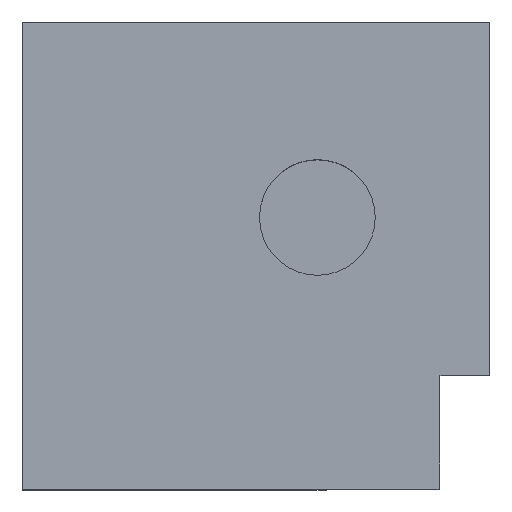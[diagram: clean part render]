
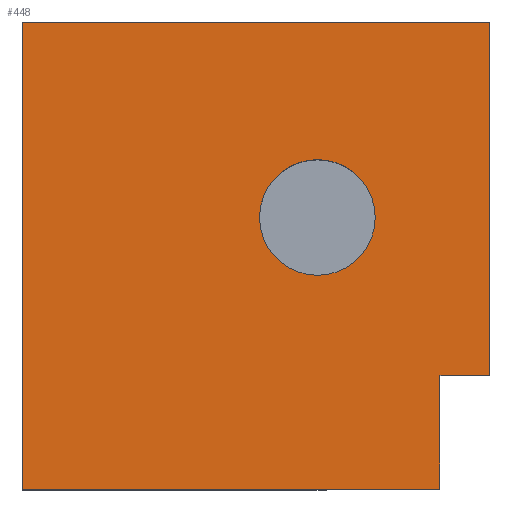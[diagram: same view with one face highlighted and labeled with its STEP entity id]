
A CAD part, top view. The second image highlights one B-rep face of the part: STEP entity #448.
In plain terms, the highlighted planar face has unit normal (0, 0, 1).
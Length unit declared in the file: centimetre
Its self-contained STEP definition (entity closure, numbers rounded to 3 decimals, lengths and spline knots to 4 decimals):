
#16 = DIRECTION ( 'NONE',  ( 0., 0., 1. ) ) ;
#17 = CARTESIAN_POINT ( 'NONE',  ( 893.8441, 243.6438, 1000. ) ) ;
#40 = EDGE_CURVE ( 'NONE', #716, #619, #189, .T. ) ;
#45 = CARTESIAN_POINT ( 'NONE',  ( 1000., 243.6438, 1000. ) ) ;
#47 = DIRECTION ( 'NONE',  ( 1., 0., 0. ) ) ;
#53 = CARTESIAN_POINT ( 'NONE',  ( 893.8441, 0., 1000. ) ) ;
#63 = VECTOR ( 'NONE', #374, 100. ) ;
#64 = ORIENTED_EDGE ( 'NONE', *, *, #40, .F. ) ;
#72 = VECTOR ( 'NONE', #732, 100. ) ;
#81 = DIRECTION ( 'NONE',  ( 0., -1., 0. ) ) ;
#111 = CARTESIAN_POINT ( 'NONE',  ( 631.4034, 581.6803, 1000. ) ) ;
#121 = LINE ( 'NONE', #384, #63 ) ;
#137 = ORIENTED_EDGE ( 'NONE', *, *, #536, .T. ) ;
#150 = CARTESIAN_POINT ( 'NONE',  ( 1000., 243.6438, 1000. ) ) ;
#158 = CARTESIAN_POINT ( 'NONE',  ( 0., 0., 1000. ) ) ;
#166 = VECTOR ( 'NONE', #407, 100. ) ;
#178 = EDGE_LOOP ( 'NONE', ( #64, #245 ) ) ;
#187 = CARTESIAN_POINT ( 'NONE',  ( 893.8441, 243.6438, 1000. ) ) ;
#189 = CIRCLE ( 'NONE', #583, 123.8668 ) ;
#192 = ORIENTED_EDGE ( 'NONE', *, *, #588, .T. ) ;
#195 = VECTOR ( 'NONE', #520, 100. ) ;
#202 = VECTOR ( 'NONE', #81, 100. ) ;
#232 = CIRCLE ( 'NONE', #493, 123.8668 ) ;
#245 = ORIENTED_EDGE ( 'NONE', *, *, #252, .F. ) ;
#252 = EDGE_CURVE ( 'NONE', #619, #716, #232, .T. ) ;
#256 = CARTESIAN_POINT ( 'NONE',  ( 0., 1000., 1000. ) ) ;
#281 = VERTEX_POINT ( 'NONE', #496 ) ;
#289 = CARTESIAN_POINT ( 'NONE',  ( 0., 0., 1000. ) ) ;
#317 = VERTEX_POINT ( 'NONE', #45 ) ;
#322 = VERTEX_POINT ( 'NONE', #502 ) ;
#324 = LINE ( 'NONE', #517, #705 ) ;
#327 = DIRECTION ( 'NONE',  ( 1., 0., 0. ) ) ;
#341 = LINE ( 'NONE', #150, #166 ) ;
#353 = LINE ( 'NONE', #17, #202 ) ;
#366 = DIRECTION ( 'NONE',  ( 0., 0., 1. ) ) ;
#369 = EDGE_CURVE ( 'NONE', #281, #322, #614, .T. ) ;
#374 = DIRECTION ( 'NONE',  ( 0., 1., 0. ) ) ;
#384 = CARTESIAN_POINT ( 'NONE',  ( 1000., 1000., 1000. ) ) ;
#405 = CARTESIAN_POINT ( 'NONE',  ( 631.4034, 581.6803, 1000. ) ) ;
#407 = DIRECTION ( 'NONE',  ( -1., 0., 0. ) ) ;
#410 = DIRECTION ( 'NONE',  ( 0., 0., 1. ) ) ;
#418 = CARTESIAN_POINT ( 'NONE',  ( 755.2702, 581.6803, 1000. ) ) ;
#448 = ADVANCED_FACE ( 'NONE', ( #753, #605 ), #663, .T. ) ;
#454 = ORIENTED_EDGE ( 'NONE', *, *, #501, .T. ) ;
#493 = AXIS2_PLACEMENT_3D ( 'NONE', #111, #366, #47 ) ;
#496 = CARTESIAN_POINT ( 'NONE',  ( 1000., 1000., 1000. ) ) ;
#501 = EDGE_CURVE ( 'NONE', #783, #618, #324, .T. ) ;
#502 = CARTESIAN_POINT ( 'NONE',  ( 0., 1000., 1000. ) ) ;
#517 = CARTESIAN_POINT ( 'NONE',  ( 0., 0., 1000. ) ) ;
#520 = DIRECTION ( 'NONE',  ( 0., -1., 0. ) ) ;
#533 = CARTESIAN_POINT ( 'NONE',  ( 0., 1000., 1000. ) ) ;
#536 = EDGE_CURVE ( 'NONE', #317, #281, #121, .T. ) ;
#554 = ORIENTED_EDGE ( 'NONE', *, *, #709, .F. ) ;
#583 = AXIS2_PLACEMENT_3D ( 'NONE', #405, #410, #327 ) ;
#584 = VERTEX_POINT ( 'NONE', #187 ) ;
#588 = EDGE_CURVE ( 'NONE', #322, #783, #664, .T. ) ;
#595 = CARTESIAN_POINT ( 'NONE',  ( 507.5366, 581.6803, 1000. ) ) ;
#605 = FACE_BOUND ( 'NONE', #178, .T. ) ;
#614 = LINE ( 'NONE', #533, #72 ) ;
#618 = VERTEX_POINT ( 'NONE', #53 ) ;
#619 = VERTEX_POINT ( 'NONE', #595 ) ;
#663 = PLANE ( 'NONE',  #667 ) ;
#664 = LINE ( 'NONE', #256, #195 ) ;
#667 = AXIS2_PLACEMENT_3D ( 'NONE', #158, #16, #817 ) ;
#705 = VECTOR ( 'NONE', #777, 100. ) ;
#709 = EDGE_CURVE ( 'NONE', #584, #618, #353, .T. ) ;
#716 = VERTEX_POINT ( 'NONE', #418 ) ;
#732 = DIRECTION ( 'NONE',  ( -1., 0., 0. ) ) ;
#741 = ORIENTED_EDGE ( 'NONE', *, *, #369, .T. ) ;
#744 = ORIENTED_EDGE ( 'NONE', *, *, #757, .F. ) ;
#753 = FACE_OUTER_BOUND ( 'NONE', #813, .T. ) ;
#757 = EDGE_CURVE ( 'NONE', #317, #584, #341, .T. ) ;
#777 = DIRECTION ( 'NONE',  ( 1., 0., 0. ) ) ;
#783 = VERTEX_POINT ( 'NONE', #289 ) ;
#813 = EDGE_LOOP ( 'NONE', ( #554, #744, #137, #741, #192, #454 ) ) ;
#817 = DIRECTION ( 'NONE',  ( 1., 0., 0. ) ) ;
